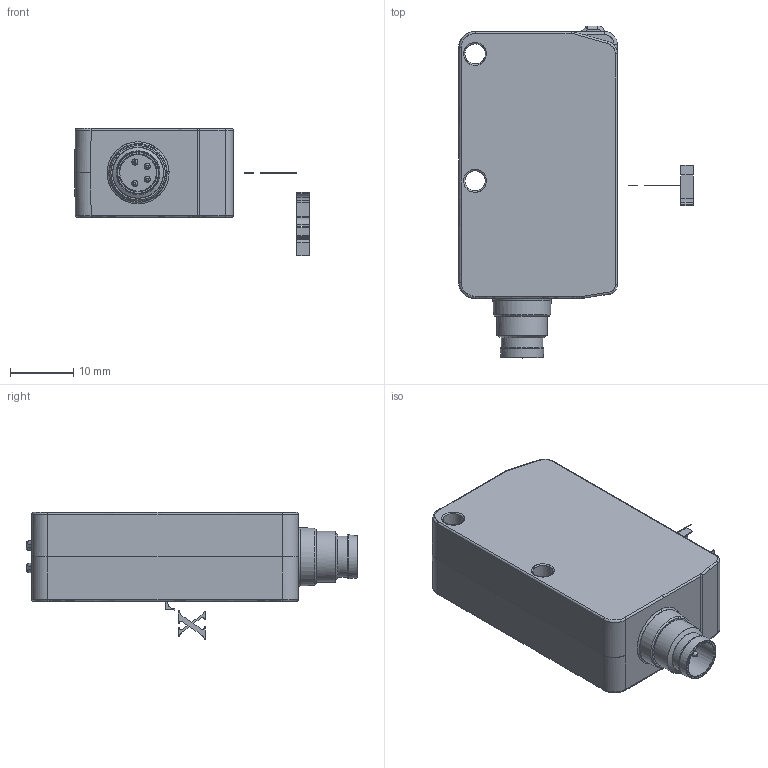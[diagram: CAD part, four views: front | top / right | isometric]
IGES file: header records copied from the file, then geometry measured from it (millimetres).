
Start section: JAMA-IS VERSION  1.0
Global section: file name: D:\CS\IDF\TESTPCB\DSD-0444.igs; native system: NX V12.0; preprocessor: SIEMENS PLM Software NX 12.0; date: 200922.164346; units: millimetre
Bounding box: 37 x 52.3 x 20.05 mm (x, y, z)
Surface area: 4901.8 mm2 (no closed solid volume)
Topology: 0 solids, 0 shells, 369 faces, 2148 edges, 2111 vertices
Faces by surface type: bspline 369
